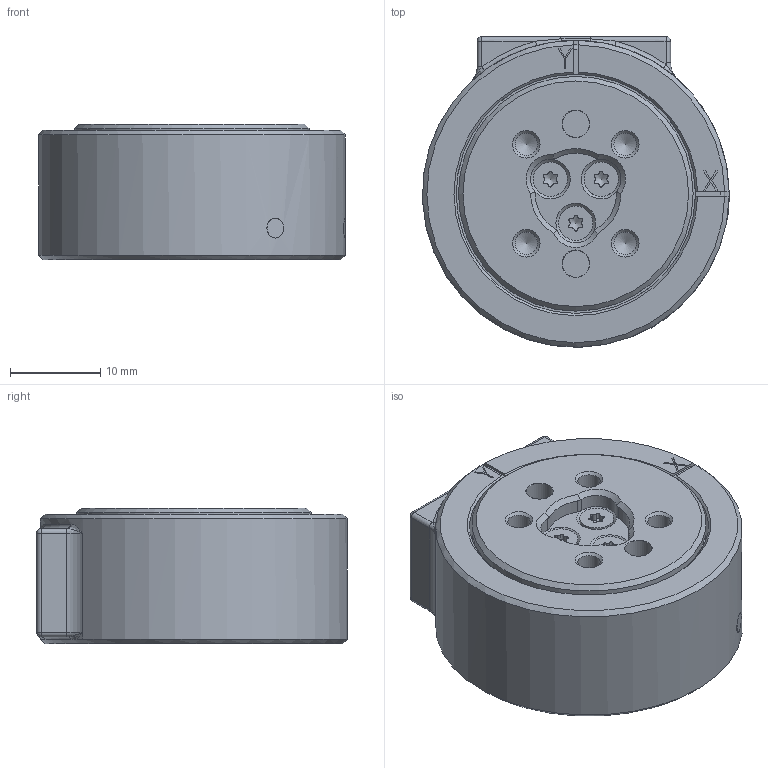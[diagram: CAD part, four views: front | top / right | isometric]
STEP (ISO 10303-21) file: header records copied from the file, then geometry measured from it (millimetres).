
FILE_DESCRIPTION (( 'STEP AP214' ), '1' );
FILE_NAME ('BFT-MN3S-USB-ML.STEP', '2026-04-23T12:01:21', ( '' ), ( '' ), 'SwSTEP 2.0', 'SolidWorks 2022', '' );
FILE_SCHEMA (( 'AUTOMOTIVE_DESIGN' ));
Length unit declared in the file: millimetre
Products named in the file (41): 91800A050_18-8 Stainless Steel Cheese Head Slotted Screw_91800A050; MIN-P022_Thinner One side; TacktiX_DNP_BOARD; ADS131M08IRSNT-Footprint-1_CMP-00011-1; BFT-MN3S-USB-ML; DIN 912 M2.5 x 6 --- 6S-A2-70-NT_DIN 912 M2.5 x 6 --- 6S-A2-70-NT; STM32H503KBU6-Footprint-1_CMP-020-00025-1; RESC0603X26X15LL03T05_CMP-2004-02556-1; PAR-00006_PAR-00006; FP-SOT25-MFG_CMP-12756-000035-1; RESC0603X28X15ML05T05_CMP-2004-00291-1; BMI323-Footprint-1_CMP-015-00011-1; FP-NCP15-NCU15-0_05-IPC_B_CMP-06022-000156-2; TacktiX_DNP; MIN-P021_SE CUT 1; RESC0603X28X15LL05T05_CMP-1010-00066-2; J-Link_6-pin_Needle_Adapter_no_legs_CMP-009-00192-3; CAPC1005X60X30LL05T10_CMP-2008-02056-1; ISO 14581 M2x8x8-S-A2-70-NT_ISO 14581 M2x8x8-S-A2-70-NT; MiniOne_Gen_B_TOP_-_SideConn-V2; MIN-P021_SE Cut 2; CAPC0603X33X15LL03T05_CMP-2010-01749-1; ECS-1612MV-081.92-CN-TR-Footprint-1_CMP-003-00035-2; LRVH9F-P2R1-1-Footprint-1_CMP-007-00048-1; FP-C0402-BB-MFG_CMP-2008-03079-2; FP-53261-0771-MFG_CMP-04776-000278-1; FP-CC0402-MFG_CMP-03422-000893-1; IPS-4056T-01Y900-Footprint-1_CMP-002-00146-1; FP-GRM155-0_05-IPC_C_CMP-1034-02089-3; RESC1005X40X25LL05T10_CMP-2002-06480-1; LT_VH9G-Q2OO-25-1-Footprint-1_CMP-007-00047-1; MiniOne_Gen_B_TOP_-_SideConn-V2_BOARD; ISO 8734 - 1 x 3 - C1-m6-S-HR_ISO 8734 - 1 x 3 - C1-m6-S-HR; RESC1005X40X25LL05T05_CMP-2002-00609-3; CAPC0603X33X15LL03T05_CMP-1033-00661-2
Assembly tree (56 placements, depth 3):
  91800A050_18-8 Stainless Steel Cheese Head Slotted Screw_91800A050
  BFT-MN3S-USB-ML
    MIN-P021_SE Cut 2
    MIN-P022_Thinner One side
    MiniOne_Gen_B_TOP_-_SideConn-V2
      MiniOne_Gen_B_TOP_-_SideConn-V2_BOARD
      FP-53261-0771-MFG_CMP-04776-000278-1
    TacktiX_DNP
      TacktiX_DNP_BOARD
      FP-SOT25-MFG_CMP-12756-000035-1
      CAPC0603X33X15LL03T05_CMP-2010-01749-1  x6
      CAPC0603X33X15LL03T05_CMP-1033-00661-2  x9
      RESC0603X28X15ML05T05_CMP-2004-00291-1
      RESC0603X28X15LL05T05_CMP-1010-00066-2  x2
      FP-NCP15-NCU15-0_05-IPC_B_CMP-06022-000156-2
      BMI323-Footprint-1_CMP-015-00011-1
      ECS-1612MV-081.92-CN-TR-Footprint-1_CMP-003-00035-2
      RESC0603X26X15LL03T05_CMP-2004-02556-1
      RESC1005X40X25LL05T10_CMP-2002-06480-1
      LRVH9F-P2R1-1-Footprint-1_CMP-007-00048-1
      LT_VH9G-Q2OO-25-1-Footprint-1_CMP-007-00047-1
      CAPC1005X60X30LL05T10_CMP-2008-02056-1  x4
      FP-CC0402-MFG_CMP-03422-000893-1
      RESC1005X40X25LL05T05_CMP-2002-00609-3
      FP-C0402-BB-MFG_CMP-2008-03079-2
      FP-GRM155-0_05-IPC_C_CMP-1034-02089-3
      J-Link_6-pin_Needle_Adapter_no_legs_CMP-009-00192-3
      STM32H503KBU6-Footprint-1_CMP-020-00025-1
      ADS131M08IRSNT-Footprint-1_CMP-00011-1
    91800A050_18-8 Stainless Steel Cheese Head Slotted Screw_91800A050
    91800A050_18-8 Stainless Steel Cheese Head Slotted Screw_91800A050
    91800A050_18-8 Stainless Steel Cheese Head Slotted Screw_91800A050
    DIN 912 M2.5 x 6 --- 6S-A2-70-NT_DIN 912 M2.5 x 6 --- 6S-A2-70-NT
    DIN 912 M2.5 x 6 --- 6S-A2-70-NT_DIN 912 M2.5 x 6 --- 6S-A2-70-NT
    DIN 912 M2.5 x 6 --- 6S-A2-70-NT_DIN 912 M2.5 x 6 --- 6S-A2-70-NT
    PAR-00006_PAR-00006
    PAR-00006_PAR-00006
    ISO 14581 M2x8x8-S-A2-70-NT_ISO 14581 M2x8x8-S-A2-70-NT  x3
    ISO 8734 - 1 x 3 - C1-m6-S-HR_ISO 8734 - 1 x 3 - C1-m6-S-HR
  MIN-P021_SE CUT 1
  IPS-4056T-01Y900-Footprint-1_CMP-002-00146-1
Bounding box: 34.01 x 34.42 x 15 mm (x, y, z)
Volume: 8443.6 mm3; surface area: 8862.2 mm2
Topology: 263 solids, 263 shells, 4161 faces, 9938 edges, 6277 vertices
Faces by surface type: plane 2331, cylinder 890, bspline 511, cone 203, sphere 181, torus 45
Full cylindrical faces by diameter (mm): 0.15 x1, 0.255 x1, 0.4 x1, 0.6 x6, 0.8 x6, 0.95 x1, 1 x1, 1.067 x3, 1.25 x2, 1.5 x4, 1.6 x2, 2 x51, 2.2 x4, 2.4 x3, 2.5 x10, 3 x4, 3.8 x3, 4.5 x3, 5.2 x3, 23.33 x1, 25.67 x1, 26 x2, 26.5 x1, 34 x1
Entity records: 117415 total; most frequent: CARTESIAN_POINT 30464, ORIENTED_EDGE 17502, DIRECTION 15464, EDGE_CURVE 8751, VECTOR 5804, LINE 5804, VERTEX_POINT 5665, AXIS2_PLACEMENT_3D 4830
